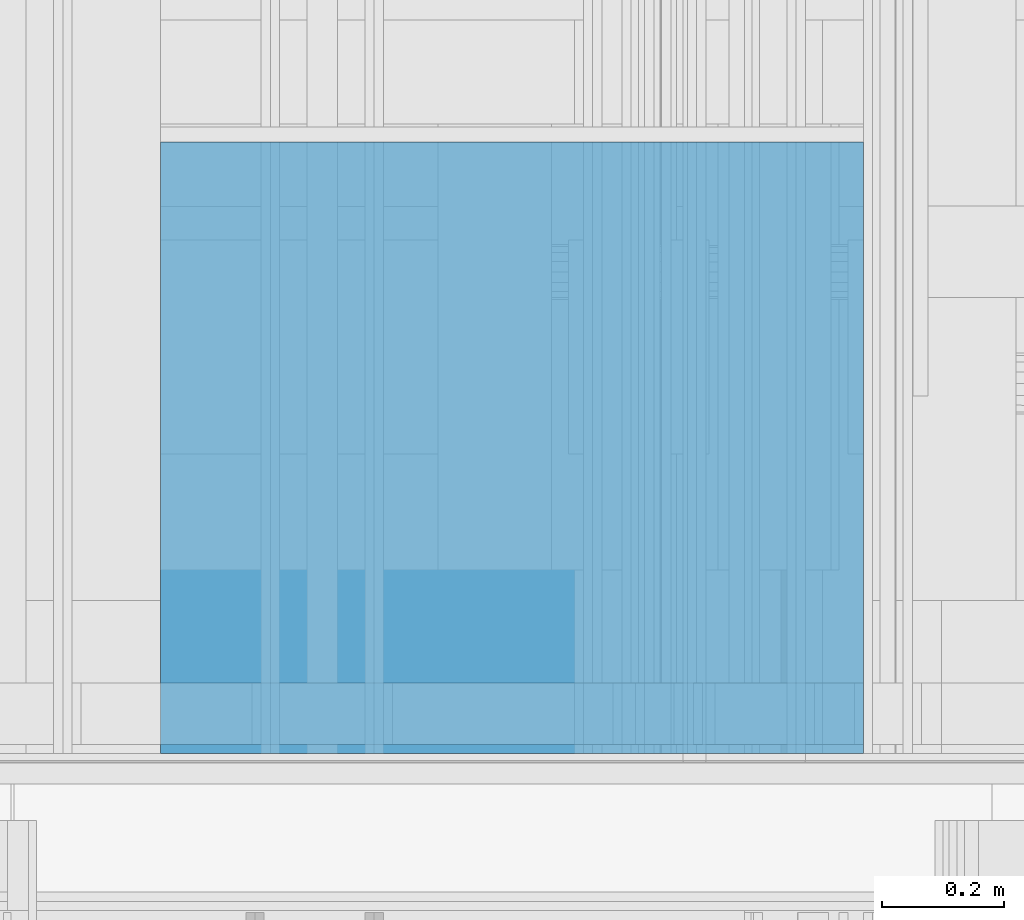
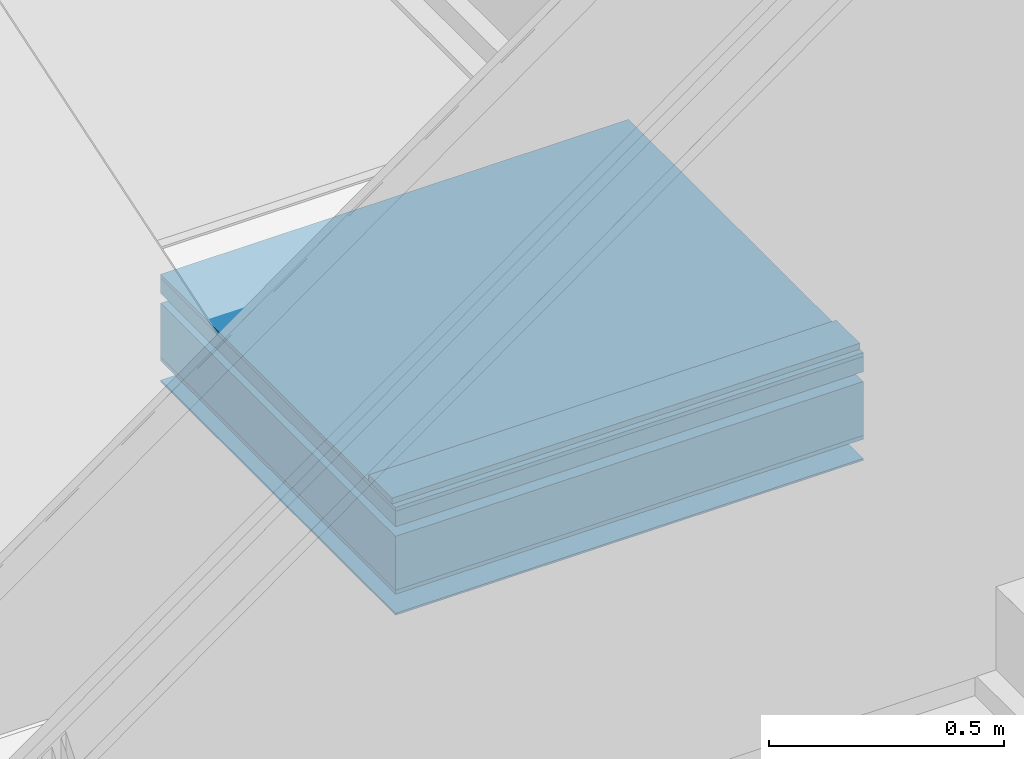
# One storey, part 138 of 583: 6 building element parts, 1 element without a shape of its own.
"""IFC2X3 building model written with IfcOpenShell, lengths in metres."""

from ifc_helpers import new_model, entity, si_unit, converted_unit, derived_unit, money_unit, direction, frame, frame_2d, origin_with_axes, place, context, subcontext, project, spatial, rectangle, extrude, material, type_object, element, aggregate, save


model = new_model("IFC2X3")

# Units and contexts
model_context = context("Model", 3, precision=1e-05, world=origin_with_axes(), true_north=direction((0.0, 1.0)))
body_context = subcontext(model_context, "Body", "Model", "MODEL_VIEW", scale=1.0)
ifc_project = project(units=[si_unit("LENGTHUNIT", "METRE"), si_unit("AREAUNIT", "SQUARE_METRE"), si_unit("VOLUMEUNIT", "CUBIC_METRE"), si_unit("ABSORBEDDOSEUNIT", "GRAY"), si_unit("AMOUNTOFSUBSTANCEUNIT", "MOLE"), si_unit("DOSEEQUIVALENTUNIT", "SIEVERT"), si_unit("ELECTRICCAPACITANCEUNIT", "FARAD"), si_unit("ELECTRICCHARGEUNIT", "COULOMB"), si_unit("ELECTRICCONDUCTANCEUNIT", "SIEMENS"), si_unit("ELECTRICCURRENTUNIT", "AMPERE"), si_unit("ELECTRICRESISTANCEUNIT", "OHM"), si_unit("ELECTRICVOLTAGEUNIT", "VOLT"), si_unit("ENERGYUNIT", "JOULE"), si_unit("FORCEUNIT", "NEWTON"), si_unit("FREQUENCYUNIT", "HERTZ"), si_unit("ILLUMINANCEUNIT", "LUX"), si_unit("INDUCTANCEUNIT", "HENRY"), si_unit("LUMINOUSFLUXUNIT", "LUMEN"), si_unit("LUMINOUSINTENSITYUNIT", "CANDELA"), si_unit("MAGNETICFLUXDENSITYUNIT", "TESLA"), si_unit("MAGNETICFLUXUNIT", "WEBER"), si_unit("MASSUNIT", "GRAM"), converted_unit("PLANEANGLEUNIT", "degree", entity("IfcReal", 0.0174532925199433), si_unit("PLANEANGLEUNIT", "RADIAN"), dimensions=[0, 0, 0, 0, 0, 0, 0]), si_unit("POWERUNIT", "WATT"), si_unit("PRESSUREUNIT", "PASCAL"), si_unit("RADIOACTIVITYUNIT", "BECQUEREL"), si_unit("SOLIDANGLEUNIT", "STERADIAN"), si_unit("THERMODYNAMICTEMPERATUREUNIT", "KELVIN"), si_unit("TIMEUNIT", "SECOND"), derived_unit("ACCELERATIONUNIT", [(si_unit("LENGTHUNIT", "METRE"), 1), (si_unit("TIMEUNIT", "SECOND"), -2)]), derived_unit("ANGULARVELOCITYUNIT", [(converted_unit("PLANEANGLEUNIT", "degree", entity("IfcReal", 0.0174532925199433), si_unit("PLANEANGLEUNIT", "RADIAN"), dimensions=[0, 0, 0, 0, 0, 0, 0]), 1), (si_unit("TIMEUNIT", "SECOND"), -1)]), derived_unit("CURVATUREUNIT", [(converted_unit("PLANEANGLEUNIT", "degree", entity("IfcReal", 0.0174532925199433), si_unit("PLANEANGLEUNIT", "RADIAN"), dimensions=[0, 0, 0, 0, 0, 0, 0]), 1), (si_unit("LENGTHUNIT", "METRE"), -1)]), derived_unit("DYNAMICVISCOSITYUNIT", [(si_unit("PRESSUREUNIT", "PASCAL"), 1), (si_unit("TIMEUNIT", "SECOND"), 1)]), derived_unit("HEATFLUXDENSITYUNIT", [(si_unit("POWERUNIT", "WATT"), 1), (si_unit("LENGTHUNIT", "METRE"), -2)]), derived_unit("HEATINGVALUEUNIT", [(si_unit("ENERGYUNIT", "JOULE"), 1), (si_unit("MASSUNIT", "GRAM"), -1)]), derived_unit("INTEGERCOUNTRATEUNIT", [(si_unit("TIMEUNIT", "SECOND"), -1)]), derived_unit("IONCONCENTRATIONUNIT", [(si_unit("MASSUNIT", "GRAM"), 1), (si_unit("VOLUMEUNIT", "CUBIC_METRE"), -1)]), derived_unit("ISOTHERMALMOISTURECAPACITYUNIT", [(si_unit("VOLUMEUNIT", "CUBIC_METRE"), 1), (si_unit("MASSUNIT", "GRAM"), -1)]), derived_unit("KINEMATICVISCOSITYUNIT", [(si_unit("AREAUNIT", "SQUARE_METRE"), 1), (si_unit("TIMEUNIT", "SECOND"), -1)]), derived_unit("LINEARFORCEUNIT", [(si_unit("FORCEUNIT", "NEWTON"), 1), (si_unit("LENGTHUNIT", "METRE"), -1)]), derived_unit("LINEARMOMENTUNIT", [(si_unit("FORCEUNIT", "NEWTON"), 1), (si_unit("LENGTHUNIT", "METRE"), -1)]), derived_unit("LINEARSTIFFNESSUNIT", [(si_unit("FORCEUNIT", "NEWTON"), 1), (si_unit("LENGTHUNIT", "METRE"), -1)]), derived_unit("LINEARVELOCITYUNIT", [(si_unit("LENGTHUNIT", "METRE"), 1), (si_unit("TIMEUNIT", "SECOND"), -1)]), derived_unit("LUMINOUSINTENSITYDISTRIBUTIONUNIT", [(si_unit("LUMINOUSINTENSITYUNIT", "CANDELA"), 1), (si_unit("LUMINOUSFLUXUNIT", "LUMEN"), -1)]), derived_unit("MASSDENSITYUNIT", [(si_unit("MASSUNIT", "GRAM"), 1), (si_unit("VOLUMEUNIT", "CUBIC_METRE"), -1)]), derived_unit("MASSFLOWRATEUNIT", [(si_unit("MASSUNIT", "GRAM"), 1), (si_unit("TIMEUNIT", "SECOND"), -1)]), derived_unit("MASSPERLENGTHUNIT", [(si_unit("MASSUNIT", "GRAM"), 1), (si_unit("LENGTHUNIT", "METRE"), -1)]), derived_unit("MODULUSOFELASTICITYUNIT", [(si_unit("FORCEUNIT", "NEWTON"), 1), (si_unit("AREAUNIT", "SQUARE_METRE"), -1)]), derived_unit("MODULUSOFLINEARSUBGRADEREACTIONUNIT", [(si_unit("FORCEUNIT", "NEWTON"), 1), (si_unit("LENGTHUNIT", "METRE"), -2)]), derived_unit("MODULUSOFROTATIONALSUBGRADEREACTIONUNIT", [(si_unit("FORCEUNIT", "NEWTON"), 1), (si_unit("LENGTHUNIT", "METRE"), 1)]), derived_unit("MODULUSOFSUBGRADEREACTIONUNIT", [(si_unit("FORCEUNIT", "NEWTON"), 1), (si_unit("VOLUMEUNIT", "CUBIC_METRE"), -1)]), derived_unit("MOISTUREDIFFUSIVITYUNIT", [(si_unit("VOLUMEUNIT", "CUBIC_METRE"), 1), (si_unit("TIMEUNIT", "SECOND"), -1)]), derived_unit("MOLECULARWEIGHTUNIT", [(si_unit("MASSUNIT", "GRAM"), 1), (si_unit("AMOUNTOFSUBSTANCEUNIT", "MOLE"), -1)]), derived_unit("PLANARFORCEUNIT", [(si_unit("FORCEUNIT", "NEWTON"), 1), (si_unit("LENGTHUNIT", "METRE"), -2)]), derived_unit("ROTATIONALFREQUENCYUNIT", [(si_unit("TIMEUNIT", "SECOND"), -1)]), derived_unit("ROTATIONALMASSUNIT", [(si_unit("MASSUNIT", "GRAM"), 1), (si_unit("LENGTHUNIT", "METRE"), 2)]), derived_unit("ROTATIONALSTIFFNESSUNIT", [(si_unit("FORCEUNIT", "NEWTON"), 1), (si_unit("LENGTHUNIT", "METRE"), 1), (converted_unit("PLANEANGLEUNIT", "degree", entity("IfcReal", 0.0174532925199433), si_unit("PLANEANGLEUNIT", "RADIAN"), dimensions=[0, 0, 0, 0, 0, 0, 0]), -1)]), derived_unit("SECTIONAREAINTEGRALUNIT", [(si_unit("LENGTHUNIT", "METRE"), 5)]), derived_unit("SECTIONMODULUSUNIT", [(si_unit("LENGTHUNIT", "METRE"), 3)]), derived_unit("SHEARMODULUSUNIT", [(si_unit("FORCEUNIT", "NEWTON"), 1), (si_unit("AREAUNIT", "SQUARE_METRE"), -1)]), derived_unit("SOUNDPOWERUNIT", [(si_unit("ENERGYUNIT", "JOULE"), 1), (si_unit("TIMEUNIT", "SECOND"), -1)]), derived_unit("SPECIFICHEATCAPACITYUNIT", [(si_unit("FORCEUNIT", "NEWTON"), 1), (si_unit("MASSUNIT", "GRAM"), -1), (si_unit("THERMODYNAMICTEMPERATUREUNIT", "KELVIN"), -1)]), derived_unit("TEMPERATUREGRADIENTUNIT", [(si_unit("THERMODYNAMICTEMPERATUREUNIT", "KELVIN"), 1), (si_unit("LENGTHUNIT", "METRE"), -1)]), derived_unit("THERMALADMITTANCEUNIT", [(si_unit("POWERUNIT", "WATT"), 1), (si_unit("AREAUNIT", "SQUARE_METRE"), -1), (si_unit("THERMODYNAMICTEMPERATUREUNIT", "KELVIN"), -1)]), derived_unit("THERMALCONDUCTANCEUNIT", [(si_unit("POWERUNIT", "WATT"), 1), (si_unit("LENGTHUNIT", "METRE"), -1), (si_unit("THERMODYNAMICTEMPERATUREUNIT", "KELVIN"), -1)]), derived_unit("THERMALEXPANSIONCOEFFICIENTUNIT", [(si_unit("THERMODYNAMICTEMPERATUREUNIT", "KELVIN"), -1)]), derived_unit("THERMALRESISTANCEUNIT", [(si_unit("AREAUNIT", "SQUARE_METRE"), 1), (si_unit("POWERUNIT", "WATT"), -1)]), derived_unit("THERMALTRANSMITTANCEUNIT", [(si_unit("POWERUNIT", "WATT"), 1), (si_unit("AREAUNIT", "SQUARE_METRE"), -1), (si_unit("THERMODYNAMICTEMPERATUREUNIT", "KELVIN"), -1)]), derived_unit("TORQUEUNIT", [(si_unit("FORCEUNIT", "NEWTON"), 1), (si_unit("LENGTHUNIT", "METRE"), 1)]), derived_unit("VAPORPERMEABILITYUNIT", [(si_unit("MASSUNIT", "GRAM"), 1), (si_unit("TIMEUNIT", "SECOND"), -1)]), derived_unit("VOLUMETRICFLOWRATEUNIT", [(si_unit("VOLUMEUNIT", "CUBIC_METRE"), 1), (si_unit("TIMEUNIT", "SECOND"), -1)]), derived_unit("WARPINGCONSTANTUNIT", [(si_unit("LENGTHUNIT", "METRE"), 6)]), derived_unit("WARPINGMOMENTUNIT", [(si_unit("FORCEUNIT", "NEWTON"), 1), (si_unit("LENGTHUNIT", "METRE"), 2)]), money_unit("GBP")], contexts=[model_context])

# Site, building, storey
site_placement = place(None, origin_with_axes())
site = spatial("IfcSite", under=ifc_project, at=site_placement, Name="Site", CompositionType="ELEMENT")
building_placement = place(site_placement, origin_with_axes())
building = spatial("IfcBuilding", under=site, at=building_placement, Name="Building01", CompositionType="ELEMENT")
storey_placement = place(building_placement, frame((0.0, 0.0, 20.78), z_axis=(0.0, 0.0, 1.0), x_axis=(1.0, 0.0, 0.0)))
storey = spatial("IfcBuildingStorey", under=building, at=storey_placement, Name="RL", CompositionType="ELEMENT", Elevation=20.78)

# Wall, building element parts
wall_type = type_object("IfcWallType", Name="SHE_A-Walls_Type06e_ExternalWallPenthouse_280mm", PredefinedType="NOTDEFINED")
wall_placement = place(storey_placement, frame((5.174915, 14.98, -20.215061), z_axis=(0.0, 1.0, 0.0), x_axis=(1.0, 0.0, 0.0)))
wall = element("IfcWall", 1, at=wall_placement, inside=storey, type_object=wall_type, Name="6E", ObjectType="SHE_A-Walls_Type06e_ExternalWallPenthouse_280mm")
ifc_material_1 = material(Name="A_BSUK_Insulation")
placement = place(wall_placement, origin_with_axes())
building_element_part_1 = element("IfcBuildingElementPart", 2, at=placement, material=ifc_material_1, Name="1", context=body_context, shape_type="SweptSolid", body=[
    extrude(rectangle(XDim=1.149951, YDim=0.14, at=frame_2d((-0.574976, -0.07), x_axis=(1.0, 0.0))), origin_with_axes(), (0.0, 0.0, 1.0), 1.0),
])
building_element_part_2 = element("IfcBuildingElementPart", 3, at=placement, material=ifc_material_1, Name="2", context=body_context, shape_type="SweptSolid", body=[
    extrude(rectangle(XDim=1.149951, YDim=0.04, at=frame_2d((-0.574976, -0.185), x_axis=(1.0, 0.0))), origin_with_axes(), (0.0, 0.0, 1.0), 1.0),
])
ifc_material_2 = material(Name="A_BSUK_Walls_Timber")
building_element_part_3 = element("IfcBuildingElementPart", 4, at=placement, material=ifc_material_2, Name="3", context=body_context, shape_type="SweptSolid", body=[
    extrude(rectangle(XDim=1.149951, YDim=0.015, at=frame_2d((-0.574976, -0.2225), x_axis=(1.0, 0.0))), frame((0.0, 0.0, 0.015), z_axis=(0.0, 0.0, 1.0), x_axis=(1.0, 0.0, 0.0)), (0.0, 0.0, 1.0), 0.1),
])
ifc_material_3 = material(Name="A_BSUK_WallInternal_Finishes_Plasterboard")
building_element_part_4 = element("IfcBuildingElementPart", 5, at=placement, material=ifc_material_3, Name="4", context=body_context, shape_type="SweptSolid", body=[
    extrude(rectangle(XDim=1.149951, YDim=0.01, at=frame_2d((-0.574976, -0.21), x_axis=(1.0, 0.0))), origin_with_axes(), (0.0, 0.0, 1.0), 1.0),
])
building_element_part_5 = element("IfcBuildingElementPart", 6, at=placement, material=ifc_material_2, Name="5", context=body_context, shape_type="SweptSolid", body=[
    extrude(rectangle(XDim=1.149951, YDim=0.01, at=frame_2d((-0.574976, 0.005), x_axis=(1.0, 0.0))), origin_with_axes(), (0.0, 0.0, 1.0), 1.0),
])
ifc_material_4 = material(Name="A_BSUK_WallInternal_Finishes_Metal")
building_element_part_6 = element("IfcBuildingElementPart", 7, at=placement, material=ifc_material_4, Name="6", context=body_context, shape_type="SweptSolid", body=[
    extrude(rectangle(XDim=1.149951, YDim=0.005, at=frame_2d((-0.574976, 0.0625), x_axis=(1.0, 0.0))), origin_with_axes(), (0.0, 0.0, 1.0), 1.0),
])
aggregate(wall, [building_element_part_1, building_element_part_2, building_element_part_3, building_element_part_4, building_element_part_5, building_element_part_6])

save(model, "model.ifc")
